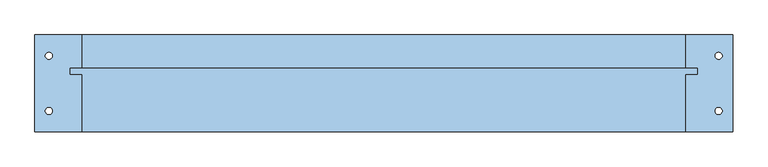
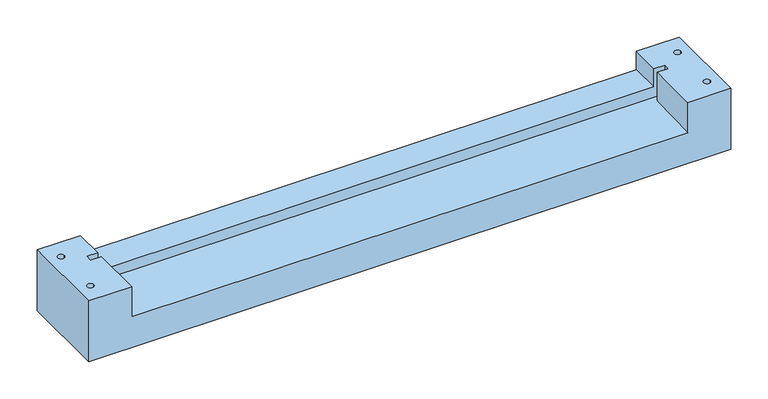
"""IFC4 building model written with IfcOpenShell, lengths in millimetres: window geometry, 30_NS_BI_51-57 : BI-57_neut30."""

from ifc_helpers import new_model, si_unit, frame, origin, place, context, project, spatial, polyline, circle_curve, source, transform, mapped, element, save
from ifc_brep_helpers import plane_surface, revolved_surface, advanced_brep


def window_68828c6e(model_context):
    return source(origin(), model_context, "Body", "AdvancedBrep", [
        advanced_brep(
        [(0.0, -139.0, 0.0), (0.0, 0.0, 0.0), (1000.0, 0.0, 0.0), (1000.0, -139.0, 0.0), (975.0, -109.0, 0.0), (985.0, -109.0, 0.0), (975.0, -30.0, 0.0), (985.0, -30.0, 0.0), (15.0, -109.0, 0.0), (25.0, -109.0, 0.0), (15.0, -30.0, 0.0), (25.0, -30.0, 0.0), (67.0, 0.0, 100.0), (0.0, 0.0, 100.0), (0.0, -139.0, 100.0), (67.0, -139.0, 100.0), (67.0, -57.0, 100.0), (50.0, -57.0, 100.0), (50.0, -47.0, 100.0), (67.0, -47.0, 100.0), (25.0, -109.0, 100.0), (15.0, -109.0, 100.0), (25.0, -30.0, 100.0), (15.0, -30.0, 100.0), (1000.0, 0.0, 100.0), (1000.0, -139.0, 100.0), (50.0, -47.0, 53.0), (50.0, -57.0, 52.7010175), (67.0, -57.0, 52.7010175), (67.0, -139.0, 50.2493606), (933.0, -139.0, 50.2493606), (933.0, -57.0, 52.7010175), (950.0, -57.0, 52.7010175), (950.0, -47.0, 53.0), (975.0, -109.0, 100.0), (985.0, -109.0, 100.0), (975.0, -30.0, 100.0), (985.0, -30.0, 100.0), (950.0, -47.0, 100.0), (933.0, -47.0, 100.0), (933.0, -47.0, 70.0), (67.0, -47.0, 70.0), (933.0, -139.0, 100.0), (67.0, 0.0, 70.0), (933.0, 0.0, 70.0), (933.0, 0.0, 100.0), (933.0, -57.0, 100.0), (950.0, -57.0, 100.0)],
        [
            (0, 1),
            (1, 2),
            (2, 3),
            (3, 0),
            (4, 5, circle_curve(frame((980.0, -109.0, 0.0), z_axis=(0.0, 0.0, 1.0), x_axis=(1.0, 0.0, 0.0)), 5.0)),
            (5, 4, circle_curve(frame((980.0, -109.0, 0.0), z_axis=(0.0, 0.0, 1.0), x_axis=(1.0, 0.0, 0.0)), 5.0)),
            (6, 7, circle_curve(frame((980.0, -30.0, 0.0), z_axis=(0.0, 0.0, 1.0), x_axis=(1.0, 0.0, 0.0)), 5.0)),
            (7, 6, circle_curve(frame((980.0, -30.0, 0.0), z_axis=(0.0, 0.0, 1.0), x_axis=(1.0, 0.0, 0.0)), 5.0)),
            (8, 9, circle_curve(frame((20.0, -109.0, 0.0), z_axis=(0.0, 0.0, 1.0), x_axis=(1.0, 0.0, 0.0)), 5.0)),
            (9, 8, circle_curve(frame((20.0, -109.0, 0.0), z_axis=(0.0, 0.0, 1.0), x_axis=(1.0, 0.0, 0.0)), 5.0)),
            (10, 11, circle_curve(frame((20.0, -30.0, 0.0), z_axis=(0.0, 0.0, 1.0), x_axis=(1.0, 0.0, 0.0)), 5.0)),
            (11, 10, circle_curve(frame((20.0, -30.0, 0.0), z_axis=(0.0, 0.0, 1.0), x_axis=(1.0, 0.0, 0.0)), 5.0)),
            (12, 13),
            (13, 14),
            (14, 15),
            (15, 16),
            (16, 17),
            (17, 18),
            (18, 19),
            (19, 12),
            (20, 21, circle_curve(frame((20.0, -109.0, 100.0), z_axis=(0.0, 0.0, -1.0), x_axis=(1.0, 0.0, 0.0)), 5.0)),
            (21, 20, circle_curve(frame((20.0, -109.0, 100.0), z_axis=(0.0, 0.0, -1.0), x_axis=(1.0, 0.0, 0.0)), 5.0)),
            (22, 23, circle_curve(frame((20.0, -30.0, 100.0), z_axis=(0.0, 0.0, -1.0), x_axis=(1.0, 0.0, 0.0)), 5.0)),
            (23, 22, circle_curve(frame((20.0, -30.0, 100.0), z_axis=(0.0, 0.0, -1.0), x_axis=(1.0, 0.0, 0.0)), 5.0)),
            (2, 24),
            (24, 25),
            (25, 3),
            (26, 27),
            (27, 28),
            (28, 29),
            (29, 30),
            (30, 31),
            (31, 32),
            (32, 33),
            (33, 26),
            (4, 34),
            (34, 35, circle_curve(frame((980.0, -109.0, 100.0), z_axis=(0.0, 0.0, 1.0), x_axis=(1.0, 0.0, 0.0)), 5.0)),
            (35, 5),
            (35, 34, circle_curve(frame((980.0, -109.0, 100.0), z_axis=(0.0, 0.0, 1.0), x_axis=(1.0, 0.0, 0.0)), 5.0)),
            (6, 36),
            (36, 37, circle_curve(frame((980.0, -30.0, 100.0), z_axis=(0.0, 0.0, 1.0), x_axis=(1.0, 0.0, 0.0)), 5.0)),
            (37, 7),
            (37, 36, circle_curve(frame((980.0, -30.0, 100.0), z_axis=(0.0, 0.0, 1.0), x_axis=(1.0, 0.0, 0.0)), 5.0)),
            (8, 21),
            (20, 9),
            (10, 23),
            (22, 11),
            (18, 26),
            (33, 38),
            (38, 39),
            (39, 40),
            (40, 41),
            (41, 19),
            (17, 27),
            (16, 28),
            (15, 29),
            (14, 0),
            (25, 42),
            (42, 30),
            (13, 1),
            (12, 43),
            (43, 44),
            (44, 45),
            (45, 24),
            (42, 46),
            (46, 31),
            (46, 47),
            (47, 32),
            (47, 38),
            (43, 41),
            (40, 44),
            (45, 39),
        ],
        [
            plane_surface(frame((0.0, 0.0, 0.0), z_axis=(0.0, 0.0, -1.0), x_axis=(1.0, 0.0, 0.0))),
            plane_surface(frame((0.0, 0.0, 100.0), z_axis=(0.0, 0.0, 1.0), x_axis=(1.0, 0.0, 0.0))),
            plane_surface(frame((1000.0, 0.0, 0.0), z_axis=(1.0, 0.0, 0.0), x_axis=(0.0, 0.0, 1.0))),
            plane_surface(frame((0.0, -139.0, 50.2493606), z_axis=(0.0, -0.029884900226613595, 0.9995533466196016), x_axis=(1.0, 0.0, 0.0))),
            revolved_surface(polyline([(985.0, -109.0, 0.0), (985.0, -109.0, 100.0)]), (980.0, -109.0, 0.0), (0.0, 0.0, -1.0)),
            revolved_surface(polyline([(985.0, -30.0, 0.0), (985.0, -30.0, 100.0)]), (980.0, -30.0, 0.0), (0.0, 0.0, -1.0)),
            revolved_surface(polyline([(25.0, -109.0, 0.0), (25.0, -109.0, 100.0)]), (20.0, -109.0, 0.0), (0.0, 0.0, -1.0)),
            revolved_surface(polyline([(25.0, -30.0, 0.0), (25.0, -30.0, 100.0)]), (20.0, -30.0, 0.0), (0.0, 0.0, -1.0)),
            plane_surface(frame((67.0, -47.0, 0.0), z_axis=(0.0, -1.0, 0.0), x_axis=(0.0, 0.0, 1.0))),
            plane_surface(frame((50.0, -47.0, 0.0), z_axis=(1.0, 0.0, 0.0), x_axis=(0.0, 0.0, 1.0))),
            plane_surface(frame((50.0, -57.0, 0.0), z_axis=(0.0, 1.0, 0.0), x_axis=(0.0, 0.0, 1.0))),
            plane_surface(frame((67.0, -57.0, 0.0), z_axis=(1.0, 0.0, 0.0), x_axis=(0.0, 0.0, 1.0))),
            plane_surface(frame((67.0, -139.0, 0.0), z_axis=(0.0, -1.0, 0.0), x_axis=(0.0, 0.0, 1.0))),
            plane_surface(frame((0.0, -139.0, 0.0), z_axis=(-1.0, 0.0, 0.0), x_axis=(0.0, 0.0, 1.0))),
            plane_surface(frame((0.0, 0.0, 0.0), z_axis=(0.0, 1.0, 0.0), x_axis=(0.0, 0.0, 1.0))),
            plane_surface(frame((933.0, -139.0, 0.0), z_axis=(-1.0, 0.0, 0.0), x_axis=(0.0, 0.0, 1.0))),
            plane_surface(frame((933.0, -57.0, 0.0), z_axis=(0.0, 1.0, 0.0), x_axis=(0.0, 0.0, 1.0))),
            plane_surface(frame((950.0, -57.0, 0.0), z_axis=(-1.0, 0.0, 0.0), x_axis=(0.0, 0.0, 1.0))),
            plane_surface(frame((0.0, -47.0, 70.0), z_axis=(0.0, 0.0, 1.0), x_axis=(1.0, 0.0, 0.0))),
            plane_surface(frame((1000.0, 0.0, 100.0), z_axis=(0.0, 0.0, 1.0), x_axis=(1.0, 0.0, 0.0))),
            plane_surface(frame((67.0, 0.0, 0.0), z_axis=(1.0, 0.0, 0.0), x_axis=(0.0, 0.0, 1.0))),
            plane_surface(frame((933.0, -47.0, 0.0), z_axis=(-1.0, 0.0, 0.0), x_axis=(0.0, 0.0, 1.0))),
        ],
        [
            (0, [[1, 2, 3, 4], [5, 6], [7, 8], [9, 10], [11, 12]]),
            (1, [[13, 14, 15, 16, 17, 18, 19, 20], [21, 22], [23, 24]]),
            (2, [[-3, 25, 26, 27]]),
            (3, [[28, 29, 30, 31, 32, 33, 34, 35]]),
            (4, [[36, 37, 38, -5]]),
            (4, [[-36, -6, -38, 39]]),
            (5, [[40, 41, 42, -7]]),
            (5, [[-40, -8, -42, 43]]),
            (6, [[44, -21, 45, -9]]),
            (6, [[-44, -10, -45, -22]]),
            (7, [[46, -23, 47, -11]]),
            (7, [[-46, -12, -47, -24]]),
            (8, [[-19, 48, -35, 49, 50, 51, 52, 53]]),
            (9, [[-18, 54, -28, -48]]),
            (10, [[-17, 55, -29, -54]]),
            (11, [[-16, 56, -30, -55]]),
            (12, [[-15, 57, -4, -27, 58, 59, -31, -56]]),
            (13, [[-1, -57, -14, 60]]),
            (14, [[-13, 61, 62, 63, 64, -25, -2, -60]]),
            (15, [[65, 66, -32, -59]]),
            (16, [[67, 68, -33, -66]]),
            (17, [[69, -49, -34, -68]]),
            (18, [[70, -52, 71, -62]]),
            (19, [[72, -50, -69, -67, -65, -58, -26, -64], [-41, -43], [-37, -39]]),
            (20, [[-20, -53, -70, -61]]),
            (21, [[-72, -63, -71, -51]]),
        ],
    ),
    ])


if __name__ == "__main__":
    model = new_model("IFC4")
    model_context = context("Model", 3, world=origin())
    ifc_project = project(units=[si_unit("LENGTHUNIT", "METRE", prefix="MILLI")], contexts=[model_context])
    site = spatial("IfcSite", under=ifc_project)
    building = spatial("IfcBuilding", under=site)
    placement = place(None, origin())
    window_shape = window_68828c6e(model_context)
    element("IfcWindow", 1, ObjectType="30_NS_BI_51-57 : BI-57_neut30", at=placement, inside=building, context=model_context, shape_type="MappedRepresentation", body=[
        mapped(window_shape, transform((0.0, 0.0, 0.0), x_axis=(1.0, 0.0, 0.0), y_axis=(0.0, 1.0, 0.0), z_axis=(0.0, 0.0, 1.0))),
    ])
    save(model, "model.ifc")
